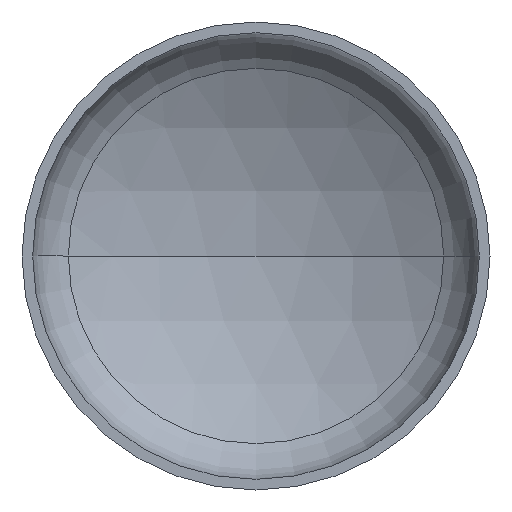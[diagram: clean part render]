
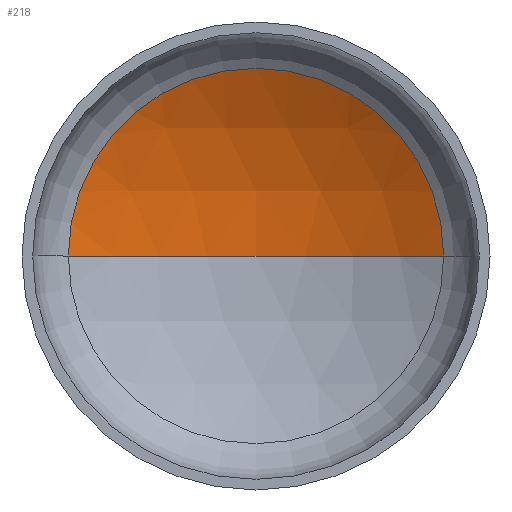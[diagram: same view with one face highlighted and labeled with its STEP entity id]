
A CAD part, front view. The second image highlights one B-rep face of the part: STEP entity #218.
In plain terms, the highlighted spherical face has radius 1440 mm.
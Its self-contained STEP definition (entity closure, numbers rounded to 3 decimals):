
#4 = VERTEX_POINT ( 'NONE', #351 ) ;
#9 = EDGE_LOOP ( 'NONE', ( #91, #57, #41 ) ) ;
#25 = AXIS2_PLACEMENT_3D ( 'NONE', #159, #77, #134 ) ;
#28 = AXIS2_PLACEMENT_3D ( 'NONE', #393, #211, #54 ) ;
#41 = ORIENTED_EDGE ( 'NONE', *, *, #343, .T. ) ;
#54 = DIRECTION ( 'NONE',  ( 1., 0., 0. ) ) ;
#57 = ORIENTED_EDGE ( 'NONE', *, *, #345, .T. ) ;
#62 = VERTEX_POINT ( 'NONE', #246 ) ;
#67 = AXIS2_PLACEMENT_3D ( 'NONE', #158, #155, #156 ) ;
#77 = DIRECTION ( 'NONE',  ( 0., 0., -1. ) ) ;
#90 = AXIS2_PLACEMENT_3D ( 'NONE', #302, #258, #179 ) ;
#91 = ORIENTED_EDGE ( 'NONE', *, *, #329, .F. ) ;
#100 = VERTEX_POINT ( 'NONE', #347 ) ;
#134 = DIRECTION ( 'NONE',  ( -1., 0., 0. ) ) ;
#155 = DIRECTION ( 'NONE',  ( 0., 0., 1. ) ) ;
#156 = DIRECTION ( 'NONE',  ( 1., 0., 0. ) ) ;
#158 = CARTESIAN_POINT ( 'NONE',  ( 0., -878.052, 0. ) ) ;
#159 = CARTESIAN_POINT ( 'NONE',  ( 0., -878.052, 0. ) ) ;
#179 = DIRECTION ( 'NONE',  ( -1., 0., 0. ) ) ;
#196 = CIRCLE ( 'NONE', #25, 1440. ) ;
#211 = DIRECTION ( 'NONE',  ( 0., -1., 0. ) ) ;
#218 = ADVANCED_FACE ( 'NONE', ( #406 ), #282, .F. ) ;
#246 = CARTESIAN_POINT ( 'NONE',  ( 0., 561.948, 0. ) ) ;
#257 = CIRCLE ( 'NONE', #28, 721.854 ) ;
#258 = DIRECTION ( 'NONE',  ( 0., 0., -1. ) ) ;
#264 = CIRCLE ( 'NONE', #67, 1440. ) ;
#282 = SPHERICAL_SURFACE ( 'NONE', #90, 1440. ) ;
#302 = CARTESIAN_POINT ( 'NONE',  ( 0., -878.052, 0. ) ) ;
#329 = EDGE_CURVE ( 'NONE', #62, #100, #264, .T. ) ;
#343 = EDGE_CURVE ( 'NONE', #4, #100, #257, .T. ) ;
#345 = EDGE_CURVE ( 'NONE', #62, #4, #196, .T. ) ;
#347 = CARTESIAN_POINT ( 'NONE',  ( -721.854, 367.952, 0. ) ) ;
#351 = CARTESIAN_POINT ( 'NONE',  ( 721.854, 367.952, 0. ) ) ;
#393 = CARTESIAN_POINT ( 'NONE',  ( 0., 367.952, 0. ) ) ;
#406 = FACE_OUTER_BOUND ( 'NONE', #9, .T. ) ;
